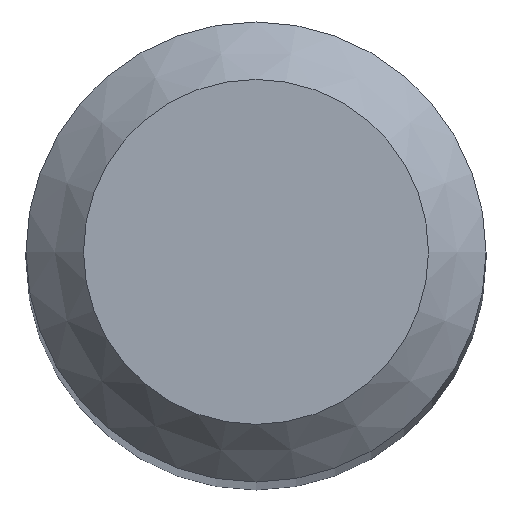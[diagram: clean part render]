
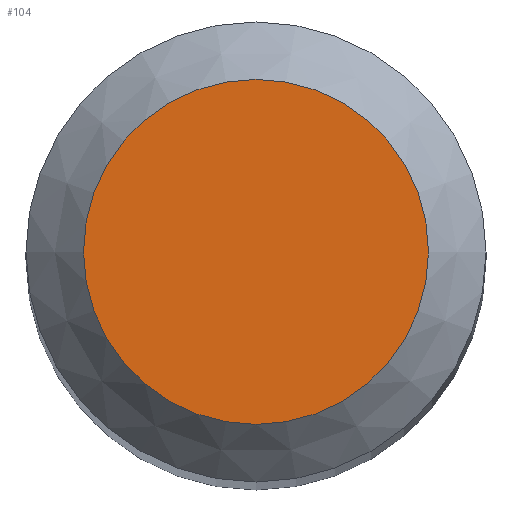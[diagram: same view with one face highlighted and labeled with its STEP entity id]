
A CAD part, top view. The second image highlights one B-rep face of the part: STEP entity #104.
In plain terms, the highlighted planar face has unit normal (0, 0, 1).
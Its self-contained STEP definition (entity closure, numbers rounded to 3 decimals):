
#88=CARTESIAN_POINT('',(1.5,0.0,80.0));
#89=DIRECTION('',(0.0,0.0,1.0));
#90=DIRECTION('',(1.0,0.0,0.0));
#91=AXIS2_PLACEMENT_3D('',#88,#89,#90);
#92=PLANE('',#91);
#93=CARTESIAN_POINT('',(-1.5,0.0,80.0));
#94=VERTEX_POINT('',#93);
#95=CARTESIAN_POINT('',(0.0,0.0,80.0));
#96=DIRECTION('',(0.0,0.0,-1.0));
#97=DIRECTION('',(-1.0,0.0,0.0));
#98=AXIS2_PLACEMENT_3D('',#95,#96,#97);
#99=CIRCLE('',#98,1.5);
#100=EDGE_CURVE('',#94,#94,#99,.T.);
#101=ORIENTED_EDGE('',*,*,#100,.F.);
#102=EDGE_LOOP('',(#101));
#103=FACE_OUTER_BOUND('',#102,.T.);
#104=ADVANCED_FACE('',(#103),#92,.T.);
